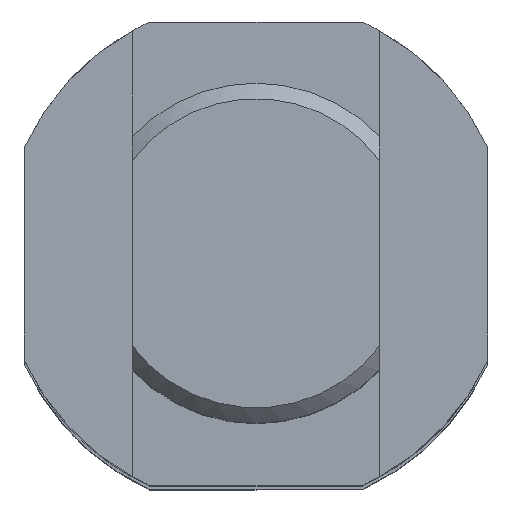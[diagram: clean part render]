
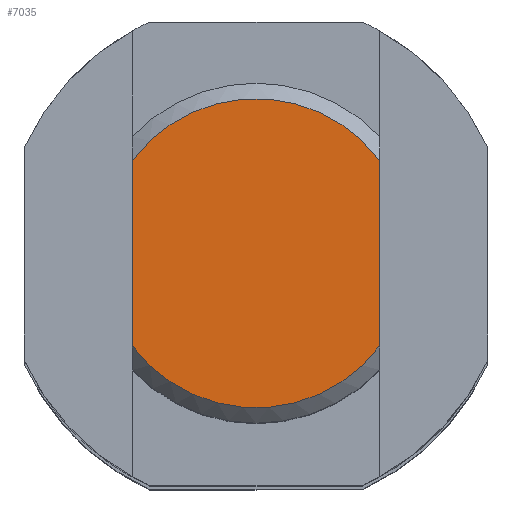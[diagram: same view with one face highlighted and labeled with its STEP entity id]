
A CAD part, top view. The second image highlights one B-rep face of the part: STEP entity #7035.
In plain terms, the highlighted planar face has unit normal (0, 0, 1) as drawn and (1, 0, 0) by its records, which use the part's own axes.
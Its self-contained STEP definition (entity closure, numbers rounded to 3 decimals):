
#92 = AXIS2_PLACEMENT_3D ( 'NONE', #2499, #18324, #4060 ) ;
#767 = EDGE_CURVE ( 'NONE', #16250, #17761, #12475, .T. ) ;
#1503 = CARTESIAN_POINT ( 'NONE',  ( 45.5, 11., 0. ) ) ;
#1755 = CIRCLE ( 'NONE', #92, 10. ) ;
#1837 = VERTEX_POINT ( 'NONE', #12690 ) ;
#2499 = CARTESIAN_POINT ( 'NONE',  ( 45.5, 0., 0. ) ) ;
#3459 = VECTOR ( 'NONE', #10372, 1000. ) ;
#4032 = EDGE_LOOP ( 'NONE', ( #16271, #10737, #5314, #10608 ) ) ;
#4060 = DIRECTION ( 'NONE',  ( 0., 0., 1. ) ) ;
#4380 = DIRECTION ( 'NONE',  ( 0., 0., 1. ) ) ;
#5314 = ORIENTED_EDGE ( 'NONE', *, *, #767, .T. ) ;
#5360 = LINE ( 'NONE', #18380, #3459 ) ;
#6818 = CIRCLE ( 'NONE', #10138, 10. ) ;
#7035 = ADVANCED_FACE ( 'NONE', ( #15773 ), #13995, .F. ) ;
#7522 = EDGE_CURVE ( 'NONE', #13537, #16250, #6818, .T. ) ;
#7628 = DIRECTION ( 'NONE',  ( 1., 0., 0. ) ) ;
#7889 = DIRECTION ( 'NONE',  ( -1., 0., 0. ) ) ;
#10138 = AXIS2_PLACEMENT_3D ( 'NONE', #11161, #7628, #4380 ) ;
#10372 = DIRECTION ( 'NONE',  ( 0., 1., 0. ) ) ;
#10608 = ORIENTED_EDGE ( 'NONE', *, *, #14042, .T. ) ;
#10737 = ORIENTED_EDGE ( 'NONE', *, *, #7522, .T. ) ;
#11161 = CARTESIAN_POINT ( 'NONE',  ( 45.5, 0., 0. ) ) ;
#12118 = AXIS2_PLACEMENT_3D ( 'NONE', #1503, #7889, #15664 ) ;
#12363 = CARTESIAN_POINT ( 'NONE',  ( 45.5, 11., 8. ) ) ;
#12475 = LINE ( 'NONE', #12363, #20123 ) ;
#12690 = CARTESIAN_POINT ( 'NONE',  ( 45.5, -6., -8. ) ) ;
#13218 = CARTESIAN_POINT ( 'NONE',  ( 45.5, -6., 8. ) ) ;
#13537 = VERTEX_POINT ( 'NONE', #13711 ) ;
#13711 = CARTESIAN_POINT ( 'NONE',  ( 45.5, 6., -8. ) ) ;
#13995 = PLANE ( 'NONE',  #12118 ) ;
#14042 = EDGE_CURVE ( 'NONE', #17761, #1837, #1755, .T. ) ;
#15664 = DIRECTION ( 'NONE',  ( 0., 0., 1. ) ) ;
#15773 = FACE_OUTER_BOUND ( 'NONE', #4032, .T. ) ;
#16250 = VERTEX_POINT ( 'NONE', #20249 ) ;
#16271 = ORIENTED_EDGE ( 'NONE', *, *, #20617, .T. ) ;
#17761 = VERTEX_POINT ( 'NONE', #13218 ) ;
#18324 = DIRECTION ( 'NONE',  ( 1., 0., 0. ) ) ;
#18380 = CARTESIAN_POINT ( 'NONE',  ( 45.5, 11., -8. ) ) ;
#18822 = DIRECTION ( 'NONE',  ( 0., -1., 0. ) ) ;
#20123 = VECTOR ( 'NONE', #18822, 1000. ) ;
#20249 = CARTESIAN_POINT ( 'NONE',  ( 45.5, 6., 8. ) ) ;
#20617 = EDGE_CURVE ( 'NONE', #1837, #13537, #5360, .T. ) ;
